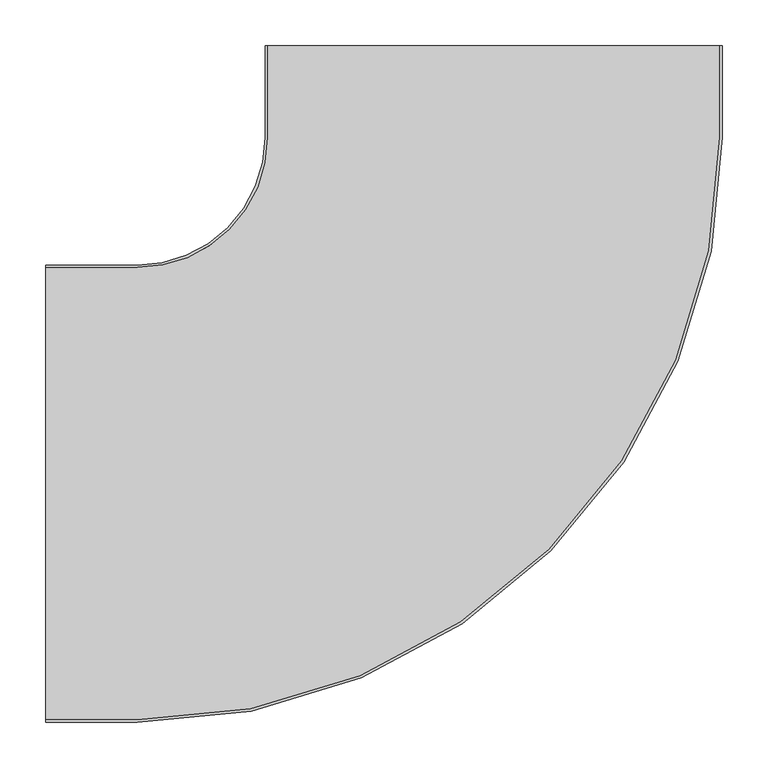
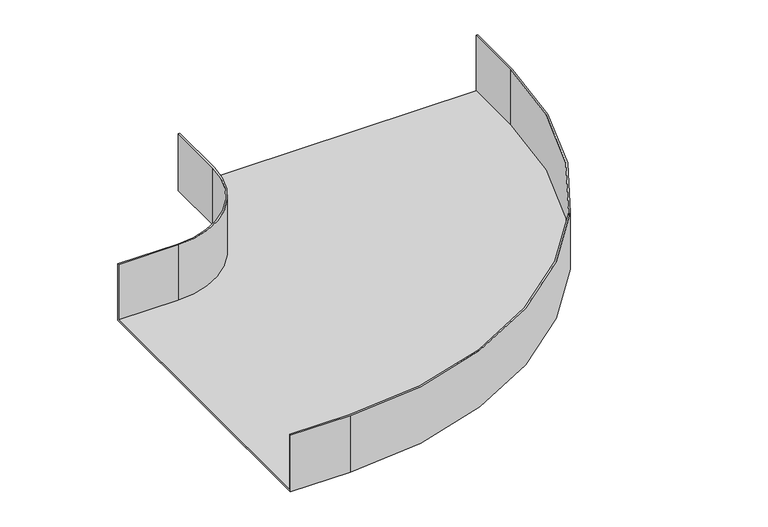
"""IFC4 building model written with IfcOpenShell, lengths in millimetres: cable carrier fitting geometry, BAKS_Horizontal bend radius : KKPP/KKMPP_H100."""

from ifc_helpers import new_model, si_unit, frame, origin, place, context, project, spatial, polyline, circle_curve, source, transform, mapped, element, save
from ifc_brep_helpers import plane_surface, cylinder_surface, revolved_surface, advanced_brep


def cable_carrier_fitting_ade76aff(model_context):
    return source(origin(), model_context, "Body", "AdvancedBrep", [
        advanced_brep(
        [(-490.0, -250.0, -50.0), (-490.0, -250.0, 50.0), (-490.0, -247.46, 50.0), (-490.0, -247.46, -47.46), (-490.0, 247.46, -47.46), (-490.0, 247.46, 50.0), (-490.0, 250.0, 50.0), (-490.0, 250.0, -50.0), (250.0, 490.0, -50.0), (-250.0, 490.0, -50.0), (-250.0, 490.0, 50.0), (-247.46, 490.0, 50.0), (-247.46, 490.0, -47.46), (247.46, 490.0, -47.46), (247.46, 490.0, 50.0), (250.0, 490.0, 50.0), (-390.0, -250.0, -50.0), (-390.0, -250.0, 50.0), (250.0, 390.0, 50.0), (247.46, 390.0, 50.0), (-390.0, -247.46, 50.0), (-390.0, -247.46, -47.46), (247.46, 390.0, -47.46), (-247.46, 390.0, -47.46), (-390.0, 247.46, -47.46), (-390.0, 247.46, 50.0), (-247.46, 390.0, 50.0), (-250.0, 390.0, 50.0), (-390.0, 250.0, 50.0), (-390.0, 250.0, -50.0), (-250.0, 390.0, -50.0), (250.0, 390.0, -50.0)],
        [
            (0, 1),
            (1, 2),
            (2, 3),
            (3, 4),
            (4, 5),
            (5, 6),
            (6, 7),
            (7, 0),
            (8, 9),
            (9, 10),
            (10, 11),
            (11, 12),
            (12, 13),
            (13, 14),
            (14, 15),
            (15, 8),
            (0, 16),
            (16, 17),
            (17, 1),
            (17, 18, circle_curve(frame((-390.0, 390.0, 50.0), z_axis=(0.0, 0.0, 1.0), x_axis=(0.0, -1.0, 0.0)), 640.0)),
            (18, 15),
            (14, 19),
            (19, 20, circle_curve(frame((-390.0, 390.0, 50.0), z_axis=(0.0, 0.0, -1.0), x_axis=(0.0, -1.0, 0.0)), 637.46)),
            (20, 2),
            (20, 21),
            (21, 3),
            (21, 22, circle_curve(frame((-390.0, 390.0, -47.46), z_axis=(0.0, 0.0, 1.0), x_axis=(0.0, -1.0, 0.0)), 637.46)),
            (22, 13),
            (12, 23),
            (23, 24, circle_curve(frame((-390.0, 390.0, -47.46), z_axis=(0.0, 0.0, -1.0), x_axis=(0.0, -1.0, 0.0)), 142.54)),
            (24, 4),
            (24, 25),
            (25, 5),
            (25, 26, circle_curve(frame((-390.0, 390.0, 50.0), z_axis=(0.0, 0.0, 1.0), x_axis=(0.0, -1.0, 0.0)), 142.54)),
            (26, 11),
            (10, 27),
            (27, 28, circle_curve(frame((-390.0, 390.0, 50.0), z_axis=(0.0, 0.0, -1.0), x_axis=(0.0, -1.0, 0.0)), 140.0)),
            (28, 6),
            (28, 29),
            (29, 7),
            (29, 30, circle_curve(frame((-390.0, 390.0, -50.0), z_axis=(0.0, 0.0, 1.0), x_axis=(0.0, -1.0, 0.0)), 140.0)),
            (30, 9),
            (8, 31),
            (31, 16, circle_curve(frame((-390.0, 390.0, -50.0), z_axis=(0.0, 0.0, -1.0), x_axis=(0.0, -1.0, 0.0)), 640.0)),
            (31, 18),
            (19, 22),
            (23, 26),
            (27, 30),
        ],
        [
            plane_surface(frame((-490.0, 0.0, 0.0), z_axis=(-1.0, 0.0, 0.0), x_axis=(0.0, 0.0, 1.0))),
            plane_surface(frame((0.0, 490.0, 0.0), z_axis=(0.0, 1.0, 0.0), x_axis=(0.0, 0.0, 1.0))),
            plane_surface(frame((-490.0, -250.0, -50.0), z_axis=(0.0, -1.0, 0.0), x_axis=(1.0, 0.0, 0.0))),
            plane_surface(frame((-490.0, -250.0, 50.0), z_axis=(0.0, 0.0, 1.0), x_axis=(1.0, 0.0, 0.0))),
            plane_surface(frame((-490.0, -247.46, 50.0), z_axis=(0.0, 1.0, 0.0), x_axis=(1.0, 0.0, 0.0))),
            plane_surface(frame((-490.0, -247.46, -47.46), z_axis=(0.0, 0.0, 1.0), x_axis=(1.0, 0.0, 0.0))),
            plane_surface(frame((-490.0, 247.46, -47.46), z_axis=(0.0, -1.0, 0.0), x_axis=(1.0, 0.0, 0.0))),
            plane_surface(frame((-490.0, 247.46, 50.0), z_axis=(0.0, 0.0, 1.0), x_axis=(1.0, 0.0, 0.0))),
            plane_surface(frame((-490.0, 250.0, 50.0), z_axis=(0.0, 1.0, 0.0), x_axis=(1.0, 0.0, 0.0))),
            plane_surface(frame((-490.0, 250.0, -50.0), z_axis=(0.0, 0.0, -1.0), x_axis=(1.0, 0.0, 0.0))),
            cylinder_surface(frame((-390.0, 390.0, 0.0), z_axis=(0.0, 0.0, 1.0), x_axis=(0.0, -1.0, 0.0)), 640.0),
            revolved_surface(polyline([(-390.0, -247.46000000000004, 50.0), (-390.0, -247.46000000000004, -47.46)]), (-390.0, 390.0, 0.0), (0.0, 0.0, 1.0)),
            cylinder_surface(frame((-390.0, 390.0, 0.0), z_axis=(0.0, 0.0, 1.0), x_axis=(0.0, -1.0, 0.0)), 142.54),
            revolved_surface(polyline([(-390.0, 250.0, 50.0), (-390.0, 250.0, -50.0)]), (-390.0, 390.0, 0.0), (0.0, 0.0, 1.0)),
            plane_surface(frame((250.0, 390.0, -50.0), z_axis=(1.0, 0.0, 0.0), x_axis=(0.0, 1.0, 0.0))),
            plane_surface(frame((247.46, 390.0, 50.0), z_axis=(-1.0, 0.0, 0.0), x_axis=(0.0, 1.0, 0.0))),
            plane_surface(frame((-247.46, 390.0, -47.46), z_axis=(1.0, 0.0, 0.0), x_axis=(0.0, 1.0, 0.0))),
            plane_surface(frame((-250.0, 390.0, 50.0), z_axis=(-1.0, 0.0, 0.0), x_axis=(0.0, 1.0, 0.0))),
        ],
        [
            (0, [[1, 2, 3, 4, 5, 6, 7, 8]]),
            (1, [[9, 10, 11, 12, 13, 14, 15, 16]]),
            (2, [[-1, 17, 18, 19]]),
            (3, [[-2, -19, 20, 21, -15, 22, 23, 24]]),
            (4, [[-3, -24, 25, 26]]),
            (5, [[-4, -26, 27, 28, -13, 29, 30, 31]]),
            (6, [[-5, -31, 32, 33]]),
            (7, [[-6, -33, 34, 35, -11, 36, 37, 38]]),
            (8, [[-7, -38, 39, 40]]),
            (9, [[-8, -40, 41, 42, -9, 43, 44, -17]]),
            (10, [[-20, -18, -44, 45]]),
            (11, [[-27, -25, -23, 46]]),
            (12, [[-34, -32, -30, 47]]),
            (13, [[-41, -39, -37, 48]]),
            (14, [[-45, -43, -16, -21]]),
            (15, [[-46, -22, -14, -28]]),
            (16, [[-47, -29, -12, -35]]),
            (17, [[-48, -36, -10, -42]]),
        ],
    ),
    ])


if __name__ == "__main__":
    model = new_model("IFC4")
    model_context = context("Model", 3, world=origin())
    ifc_project = project(units=[si_unit("LENGTHUNIT", "METRE", prefix="MILLI")], contexts=[model_context])
    site = spatial("IfcSite", under=ifc_project)
    building = spatial("IfcBuilding", under=site)
    placement = place(None, origin())
    cable_carrier_fitting_shape = cable_carrier_fitting_ade76aff(model_context)
    element("IfcCableCarrierFitting", 1, ObjectType="BAKS_Horizontal bend radius : KKPP/KKMPP_H100", at=placement, inside=building, context=model_context, shape_type="MappedRepresentation", body=[
        mapped(cable_carrier_fitting_shape, transform((0.0, 0.0, 0.0), x_axis=(1.0, 0.0, 0.0), y_axis=(0.0, 1.0, 0.0), z_axis=(0.0, 0.0, 1.0))),
    ])
    save(model, "model.ifc")
